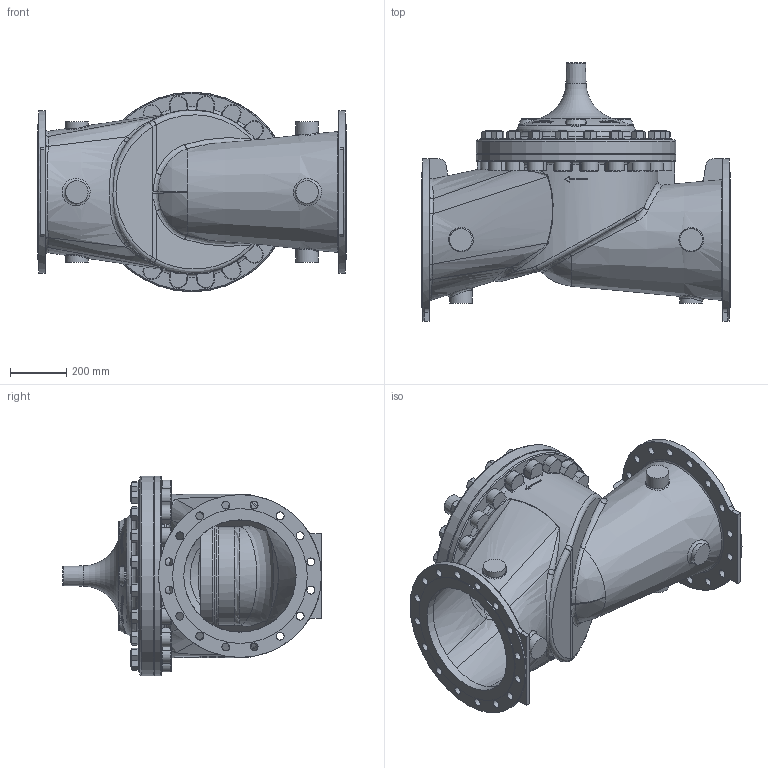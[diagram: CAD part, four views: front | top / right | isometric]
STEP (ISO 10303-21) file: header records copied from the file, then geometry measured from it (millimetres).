
FILE_DESCRIPTION(/* description */ (''),/* implementation_level */ '2;1');
FILE_NAME(/* name */ 'G:\Doc_Liberes\SymbolesCAD\Modeles_3D\FichierSTP\VanneDeBase\NGE400-10RF.stp',/* time_stamp */ '2023-08-17T15:44:34+02:00',/* author */ ('theo'),/* organization */ (''),/* preprocessor_version */ 'ST-DEVELOPER v18.1',/* originating_system */ 'Autodesk Inventor 2022',/* authorisation */ '');
FILE_SCHEMA (('AUTOMOTIVE_DESIGN { 1 0 10303 214 3 1 1 }'));
Products named in the file (1): nge400-10_Simplifier_1
Bounding box: 1100 x 921.65 x 711.2 mm (x, y, z)
Volume: 60472722.9 mm3; surface area: 5891383.9 mm2
Topology: 2 solids, 2 shells, 2140 faces, 5439 edges, 3409 vertices
Faces by surface type: plane 803, cone 499, bspline 346, cylinder 318, torus 137, sphere 37
Full cylindrical faces by diameter (mm): 28 x32, 28.575 x40, 32 x1, 57.15 x20, 70 x1, 80 x6, 319.435 x1, 336.5 x1, 378 x1, 381.5 x1, 381.508 x1, 400 x2, 480 x2, 580 x2, 685.37 x1, 687.7 x1, 710 x1, 711.2 x1
Entity records: 90772 total; most frequent: CARTESIAN_POINT 42002, ORIENTED_EDGE 10850, DIRECTION 9714, EDGE_CURVE 5425, AXIS2_PLACEMENT_3D 4236, VERTEX_POINT 3407, CIRCLE 2368, EDGE_LOOP 2363
